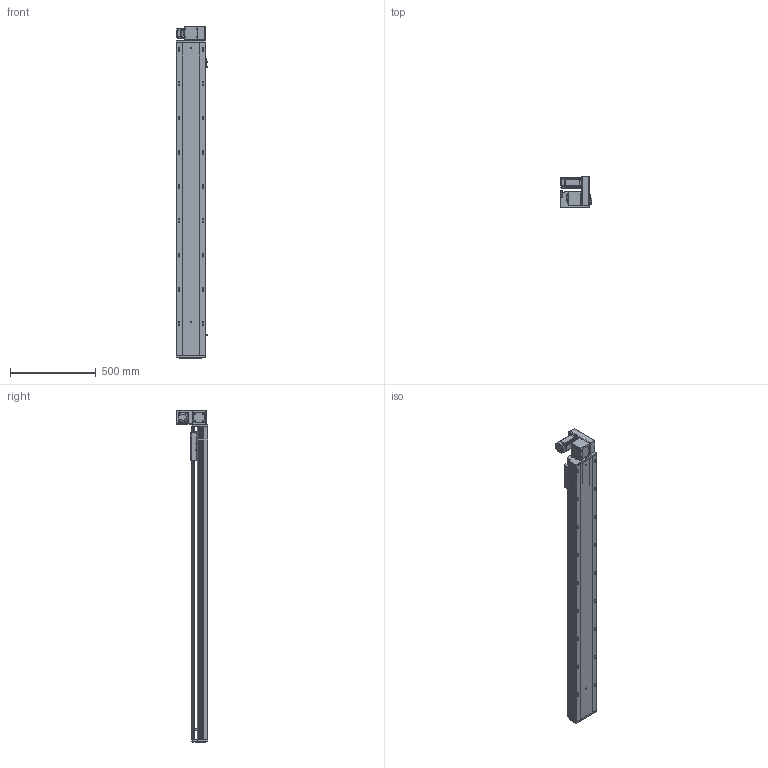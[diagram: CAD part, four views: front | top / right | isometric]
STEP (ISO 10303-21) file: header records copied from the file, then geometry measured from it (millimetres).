
FILE_DESCRIPTION (( 'STEP AP203' ), '1' );
FILE_NAME ('RY170-T-300-UR-P400W.SLDASM_1550.step', '2021-03-01T09:28:25', ( '盈信电脑' ), ( '东莞市道滘镇水果街19号' ), 'SwSTEP 2.0', 'SolidWorks 2012', '' );
FILE_SCHEMA (( 'CONFIG_CONTROL_DESIGN' ));
Length unit declared in the file: millimetre
Products named in the file (18): RY170-T-300-UR-P400W.SLDASM_1550; RY170-T肮祭謫裔啣; 滅袉蝶18-10; RY170-T蹟翐M4; 15; RY170-T肮祭湍揤踡輸1; RY170-T肮祭湍揤踡輸2; RY170肮祭謫萇儂欶; RY120-T主同步轮轴承压盖; RY170同步轮电机安装板(400W); RY170翋肮祭謫釱; RY170肮祭謫ヶ裔啣; RY170外置感应片(200共用）; RY170肮祭湍臏賑輸; 覜茼ん672; RY170-T-300肮祭謫倰第裔啣-DR_1550; RY170綴裔啣; RY170-T-300肮祭謫倰第菁釱-DR_1550
Assembly tree (22 placements, depth 2):
  RY170-T-300-UR-P400W.SLDASM_1550
    RY170-T-300肮祭謫倰第菁釱-DR_1550
    RY170肮祭湍臏賑輸
    RY170-T-300肮祭謫倰第裔啣-DR_1550
    RY170綴裔啣
    覜茼ん672  x3
    RY170外置感应片(200共用）
    RY170肮祭謫ヶ裔啣
    RY170翋肮祭謫釱
    RY170同步轮电机安装板(400W)
    RY170肮祭謫萇儂欶
    RY170-T肮祭湍揤踡輸1  x2
    RY170-T肮祭湍揤踡輸2  x2
    RY120-T主同步轮轴承压盖
    RY170-T肮祭謫裔啣
    RY170-T蹟翐M4
    滅袉蝶18-10  x2
    15
Bounding box: 183.7 x 182 x 1938 mm (x, y, z)
Volume: 9215004.4 mm3; surface area: 3155624.3 mm2
Topology: 22 solids, 22 shells, 2872 faces, 7990 edges, 5105 vertices
Faces by surface type: cylinder 1302, plane 1264, cone 276, bspline 30
Entity records: 86048 total; most frequent: CARTESIAN_POINT 19370, ORIENTED_EDGE 13608, DIRECTION 13382, EDGE_CURVE 6804, AXIS2_PLACEMENT_3D 4727, VERTEX_POINT 4461, VECTOR 3928, LINE 3928
